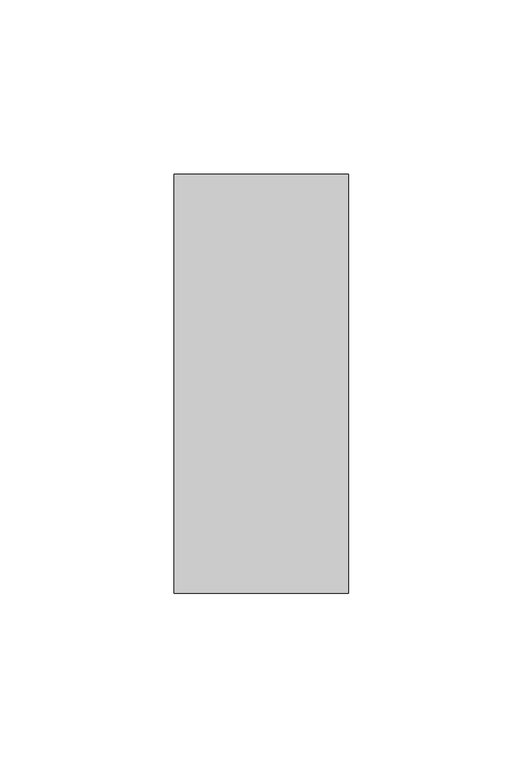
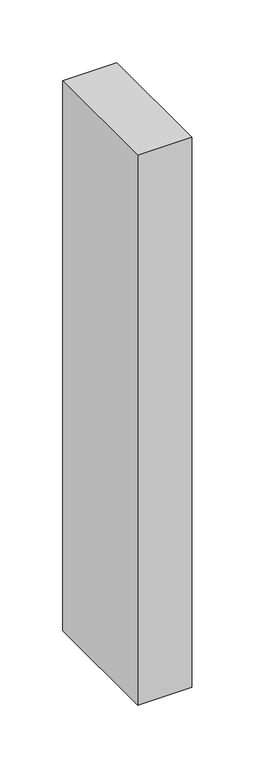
"""IFC4 building model written with IfcOpenShell, lengths in millimetres: member geometry, Прямоугольный импост : 50х120 мм."""

from ifc_helpers import new_model, si_unit, frame, origin, place, context, project, spatial, polyline, outline, extrude, source, transform, mapped, element, save


def member_20a74649(model_context):
    return source(origin(), model_context, "Body", "SweptSolid", [
        extrude(outline(polyline([(0.0, 60.0), (0.0, -60.0), (-50.0, -60.0), (-50.0, 60.0), (0.0, 60.0)])), frame((0.0, 0.0, -536.2457344), z_axis=(0.0, 0.0, 1.0), x_axis=(1.0, 0.0, 0.0)), (0.0, 0.0, 1.0), 536.2457344),
    ])


if __name__ == "__main__":
    model = new_model("IFC4")
    model_context = context("Model", 3, world=origin())
    ifc_project = project(units=[si_unit("LENGTHUNIT", "METRE", prefix="MILLI")], contexts=[model_context])
    site = spatial("IfcSite", under=ifc_project)
    building = spatial("IfcBuilding", under=site)
    placement = place(None, origin())
    member_shape = member_20a74649(model_context)
    element("IfcMember", 1, ObjectType="Прямоугольный импост : 50х120 мм", at=placement, inside=building, context=model_context, shape_type="MappedRepresentation", body=[
        mapped(member_shape, transform((0.0, 0.0, 0.0), x_axis=(1.0, 0.0, 0.0), y_axis=(0.0, 1.0, 0.0), z_axis=(0.0, 0.0, 1.0))),
    ])
    save(model, "model.ifc")
